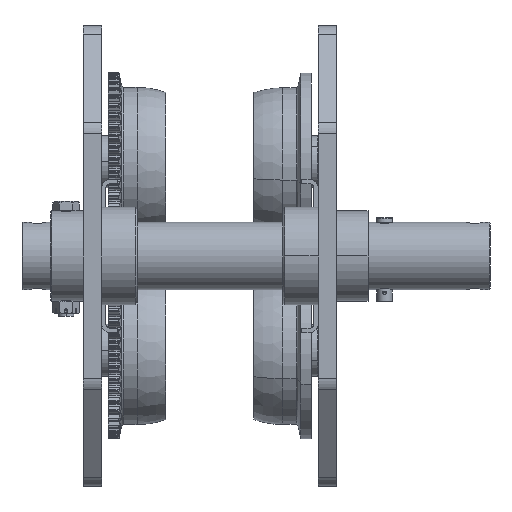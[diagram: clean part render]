
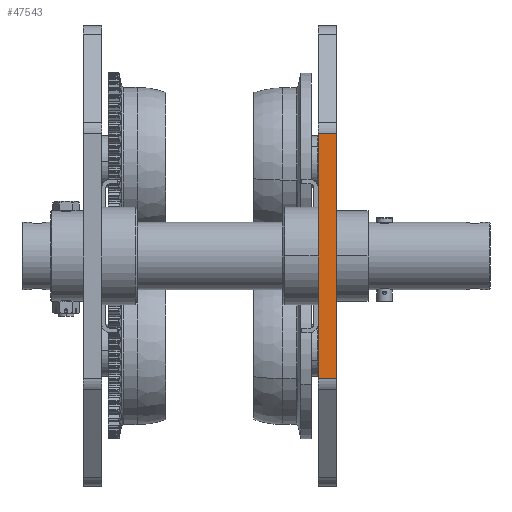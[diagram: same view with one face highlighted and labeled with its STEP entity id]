
A CAD part, front view. The second image highlights one B-rep face of the part: STEP entity #47543.
In plain terms, the highlighted planar face has unit normal (0, -1, 0).
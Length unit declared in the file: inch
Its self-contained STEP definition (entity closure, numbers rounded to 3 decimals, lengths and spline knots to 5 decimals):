
#1003 = CARTESIAN_POINT ( 'NONE',  ( -5.02793, -2.83465, 0. ) ) ;
#3576 = CARTESIAN_POINT ( 'NONE',  ( 5.02793, -2.83465, 0.74803 ) ) ;
#4189 = ORIENTED_EDGE ( 'NONE', *, *, #23406, .F. ) ;
#4532 = EDGE_CURVE ( 'NONE', #27436, #19139, #24304, .T. ) ;
#4926 = CARTESIAN_POINT ( 'NONE',  ( -5.02793, -2.83465, 0.74803 ) ) ;
#8929 = LINE ( 'NONE', #41236, #45336 ) ;
#11240 = VECTOR ( 'NONE', #16414, 39.37008 ) ;
#12741 = CARTESIAN_POINT ( 'NONE',  ( 5.02793, -2.83465, 0.74803 ) ) ;
#13447 = PLANE ( 'NONE',  #30991 ) ;
#16414 = DIRECTION ( 'NONE',  ( 1., 0., 0. ) ) ;
#17104 = DIRECTION ( 'NONE',  ( 0., 0., -1. ) ) ;
#18272 = VECTOR ( 'NONE', #42977, 39.37008 ) ;
#19139 = VERTEX_POINT ( 'NONE', #3576 ) ;
#22413 = DIRECTION ( 'NONE',  ( 0., 0., -1. ) ) ;
#23406 = EDGE_CURVE ( 'NONE', #19139, #33233, #49962, .T. ) ;
#24304 = LINE ( 'NONE', #12741, #11240 ) ;
#25542 = DIRECTION ( 'NONE',  ( -1., 0., 0. ) ) ;
#26612 = ORIENTED_EDGE ( 'NONE', *, *, #48907, .T. ) ;
#27436 = VERTEX_POINT ( 'NONE', #4926 ) ;
#30991 = AXIS2_PLACEMENT_3D ( 'NONE', #49131, #33663, #25542 ) ;
#32352 = VECTOR ( 'NONE', #22413, 39.37008 ) ;
#33233 = VERTEX_POINT ( 'NONE', #34593 ) ;
#33663 = DIRECTION ( 'NONE',  ( 0., 1., 0. ) ) ;
#34593 = CARTESIAN_POINT ( 'NONE',  ( 5.02793, -2.83465, 0. ) ) ;
#34724 = CARTESIAN_POINT ( 'NONE',  ( 5.02793, -2.83465, 0.74803 ) ) ;
#35049 = EDGE_CURVE ( 'NONE', #47829, #33233, #43222, .T. ) ;
#35100 = CARTESIAN_POINT ( 'NONE',  ( 5.02793, -2.83465, 0. ) ) ;
#36592 = EDGE_LOOP ( 'NONE', ( #37154, #4189, #42737, #26612 ) ) ;
#37154 = ORIENTED_EDGE ( 'NONE', *, *, #35049, .T. ) ;
#41236 = CARTESIAN_POINT ( 'NONE',  ( -5.02793, -2.83465, 0.74803 ) ) ;
#42737 = ORIENTED_EDGE ( 'NONE', *, *, #4532, .F. ) ;
#42977 = DIRECTION ( 'NONE',  ( 1., 0., 0. ) ) ;
#43222 = LINE ( 'NONE', #35100, #18272 ) ;
#45336 = VECTOR ( 'NONE', #17104, 39.37008 ) ;
#47543 = ADVANCED_FACE ( 'NONE', ( #49397 ), #13447, .F. ) ;
#47829 = VERTEX_POINT ( 'NONE', #1003 ) ;
#48907 = EDGE_CURVE ( 'NONE', #27436, #47829, #8929, .T. ) ;
#49131 = CARTESIAN_POINT ( 'NONE',  ( 5.02793, -2.83465, 0.74803 ) ) ;
#49397 = FACE_OUTER_BOUND ( 'NONE', #36592, .T. ) ;
#49962 = LINE ( 'NONE', #34724, #32352 ) ;
